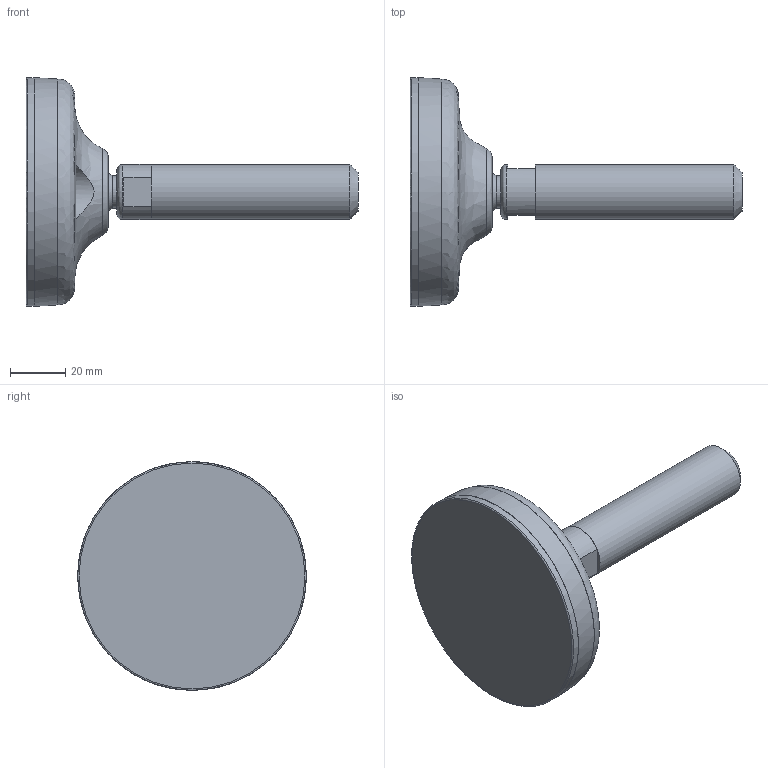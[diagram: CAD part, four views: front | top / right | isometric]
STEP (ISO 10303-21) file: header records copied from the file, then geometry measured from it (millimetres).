
FILE_DESCRIPTION(('STEP AP203'),'2;1');
FILE_NAME('10089.stp','2015-12-16T11:39:31',(''),(''),'2008.1.107','THINKDESIGN','');
FILE_SCHEMA(('CONFIG_CONTROL_DESIGN'));
Length unit declared in the file: millimetre
Bounding box: 120.5 x 83 x 83 mm (x, y, z)
Volume: 43186.7 mm3; surface area: 32736.6 mm2
Topology: 3 solids, 3 shells, 31 faces, 79 edges, 58 vertices
Faces by surface type: plane 17, bspline 8, cylinder 6
Full cylindrical faces by diameter (mm): 11.64 x1, 20 x2, 83 x1
Entity records: 1875 total; most frequent: CARTESIAN_POINT 1105, DIRECTION 140, ORIENTED_EDGE 70, AXIS2_PLACEMENT_3D 62, COMPOSITE_CURVE_SEGMENT 44, CIRCLE 39, EDGE_CURVE 35, VERTEX_POINT 25
